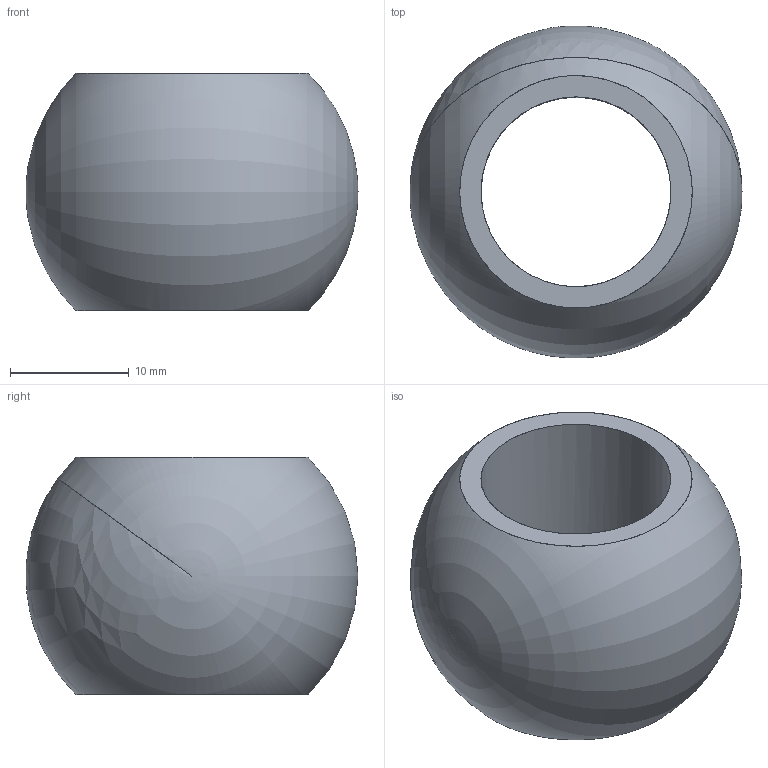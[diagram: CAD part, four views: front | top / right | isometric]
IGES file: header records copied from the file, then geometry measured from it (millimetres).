
Start section: File produced by SOLID-CONCEP (Trim Surfaces - Entity 144)
Global section: file name: sphere.igs; native system: SOLID-CONCEPT V.5.xx; preprocessor: SOLID-CONCEPT-IGES-OUT v2.00; date: 100220.122404; units: millimetre
Bounding box: 28 x 27.99 x 20 mm (x, y, z)
Surface area: 2968.9 mm2 (no closed solid volume)
Topology: 0 solids, 0 shells, 4 faces, 174 edges, 170 vertices
Faces by surface type: revolution 2, bspline 2
